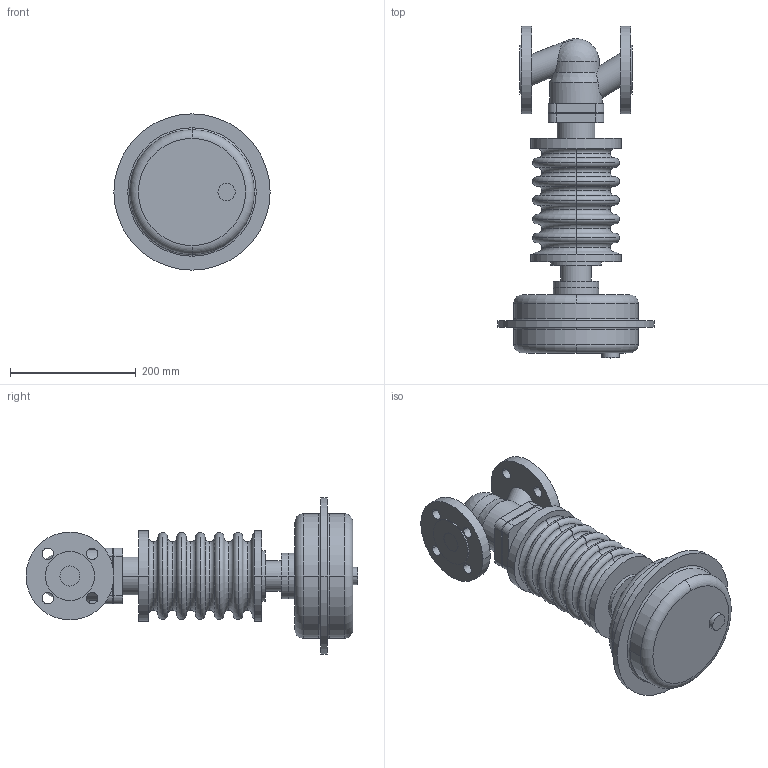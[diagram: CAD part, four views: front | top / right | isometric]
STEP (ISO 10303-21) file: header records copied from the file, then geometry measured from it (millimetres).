
FILE_DESCRIPTION( ( '' ), '1' );
FILE_NAME( 'F:/DE-SHS/TB/OR/04-Sonstiges/daten/files_3d/PREDU/PREDU-PN16-DMA250/c000005354.stp', '2014-06-03T11:12:34', ( '' ), ( '' ), ' ', ' ', ' ' );
FILE_SCHEMA( ( 'CONFIG_CONTROL_DESIGN' ) );
Length unit declared in the file: millimetre
Products named in the file (2): 1; 2
Bounding box: 249 x 529 x 249 mm (x, y, z)
Volume: 7023876.2 mm3; surface area: 455554.6 mm2
Topology: 2 solids, 2 shells, 173 faces, 414 edges, 266 vertices
Faces by surface type: cylinder 68, torus 54, plane 48, cone 2, sphere 1
Entity records: 5643 total; most frequent: CARTESIAN_POINT 1268, DIRECTION 1024, ORIENTED_EDGE 824, AXIS2_PLACEMENT_3D 449, EDGE_CURVE 412, CIRCLE 268, VERTEX_POINT 266, EDGE_LOOP 212
